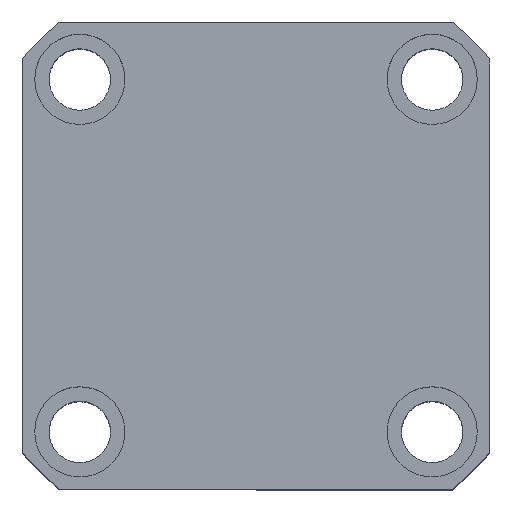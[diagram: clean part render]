
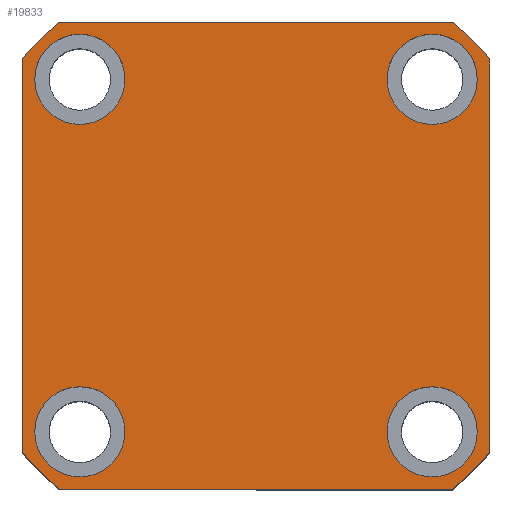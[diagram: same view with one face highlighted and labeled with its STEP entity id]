
A CAD part, top view. The second image highlights one B-rep face of the part: STEP entity #19833.
In plain terms, the highlighted planar face has unit normal (0, 0, 1) as drawn and (0, 0, -1) by its records, which use the part's own axes.
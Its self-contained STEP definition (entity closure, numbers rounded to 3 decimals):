
#9 = EDGE_CURVE ( 'NONE', #3410, #898, #810, .T. ) ;
#74 = DIRECTION ( 'NONE',  ( 0., 0., -1. ) ) ;
#260 = ORIENTED_EDGE ( 'NONE', *, *, #13606, .F. ) ;
#266 = EDGE_LOOP ( 'NONE', ( #9422, #260 ) ) ;
#399 = ORIENTED_EDGE ( 'NONE', *, *, #14203, .F. ) ;
#436 = EDGE_CURVE ( 'NONE', #10722, #5711, #14629, .T. ) ;
#810 = CIRCLE ( 'NONE', #9112, 11. ) ;
#898 = VERTEX_POINT ( 'NONE', #15229 ) ;
#918 = DIRECTION ( 'NONE',  ( 0., 1., 0. ) ) ;
#965 = ORIENTED_EDGE ( 'NONE', *, *, #436, .F. ) ;
#979 = DIRECTION ( 'NONE',  ( 0., 0., -1. ) ) ;
#1200 = VECTOR ( 'NONE', #12163, 1000. ) ;
#1265 = ORIENTED_EDGE ( 'NONE', *, *, #14939, .F. ) ;
#1425 = CARTESIAN_POINT ( 'NONE',  ( 57., -47.971, 0. ) ) ;
#1445 = CARTESIAN_POINT ( 'NONE',  ( -43., 43., 0. ) ) ;
#1877 = CARTESIAN_POINT ( 'NONE',  ( 57., 47.971, 0. ) ) ;
#2062 = AXIS2_PLACEMENT_3D ( 'NONE', #10453, #979, #12047 ) ;
#2139 = CARTESIAN_POINT ( 'NONE',  ( 0., 0., 0. ) ) ;
#2350 = AXIS2_PLACEMENT_3D ( 'NONE', #13523, #4075, #15080 ) ;
#2367 = CARTESIAN_POINT ( 'NONE',  ( -57., -47.971, 0. ) ) ;
#2419 = VERTEX_POINT ( 'NONE', #1425 ) ;
#2567 = ORIENTED_EDGE ( 'NONE', *, *, #11884, .F. ) ;
#3030 = DIRECTION ( 'NONE',  ( -1., 0., 0. ) ) ;
#3237 = EDGE_CURVE ( 'NONE', #16544, #8489, #9156, .T. ) ;
#3410 = VERTEX_POINT ( 'NONE', #17077 ) ;
#3466 = CARTESIAN_POINT ( 'NONE',  ( -57., 47.971, 0. ) ) ;
#3551 = VERTEX_POINT ( 'NONE', #17213 ) ;
#3650 = AXIS2_PLACEMENT_3D ( 'NONE', #13434, #16644, #16985 ) ;
#3732 = DIRECTION ( 'NONE',  ( 1., 0., 0. ) ) ;
#3831 = LINE ( 'NONE', #15278, #18623 ) ;
#3970 = CIRCLE ( 'NONE', #19743, 11. ) ;
#4058 = EDGE_LOOP ( 'NONE', ( #12464, #18566 ) ) ;
#4075 = DIRECTION ( 'NONE',  ( 0., 0., 1. ) ) ;
#4412 = CARTESIAN_POINT ( 'NONE',  ( -54., 43., 0. ) ) ;
#4547 = AXIS2_PLACEMENT_3D ( 'NONE', #19621, #10183, #13540 ) ;
#4614 = LINE ( 'NONE', #15111, #8313 ) ;
#5097 = CIRCLE ( 'NONE', #19983, 11. ) ;
#5223 = CARTESIAN_POINT ( 'NONE',  ( 0., 0., 0. ) ) ;
#5396 = VERTEX_POINT ( 'NONE', #15519 ) ;
#5711 = VERTEX_POINT ( 'NONE', #3466 ) ;
#5927 = DIRECTION ( 'NONE',  ( -1., 0., 0. ) ) ;
#6144 = CARTESIAN_POINT ( 'NONE',  ( -54., -43., 0. ) ) ;
#6428 = CARTESIAN_POINT ( 'NONE',  ( -43., -43., 0. ) ) ;
#6628 = EDGE_CURVE ( 'NONE', #5396, #3551, #8815, .T. ) ;
#6660 = EDGE_CURVE ( 'NONE', #898, #3410, #16695, .T. ) ;
#6822 = DIRECTION ( 'NONE',  ( 1., 0., 0. ) ) ;
#6966 = VERTEX_POINT ( 'NONE', #18559 ) ;
#7274 = FACE_BOUND ( 'NONE', #15528, .T. ) ;
#7379 = LINE ( 'NONE', #8365, #12092 ) ;
#7910 = EDGE_CURVE ( 'NONE', #2419, #14008, #4614, .T. ) ;
#7994 = EDGE_LOOP ( 'NONE', ( #399, #14477, #13018, #1265, #18265, #19288, #965, #19312 ) ) ;
#8007 = DIRECTION ( 'NONE',  ( -1., 0., 0. ) ) ;
#8026 = AXIS2_PLACEMENT_3D ( 'NONE', #18129, #8691, #19715 ) ;
#8029 = CIRCLE ( 'NONE', #19336, 74.5 ) ;
#8157 = VERTEX_POINT ( 'NONE', #12529 ) ;
#8311 = CARTESIAN_POINT ( 'NONE',  ( 43., 43., 0. ) ) ;
#8313 = VECTOR ( 'NONE', #918, 1000. ) ;
#8365 = CARTESIAN_POINT ( 'NONE',  ( -57., -57., 0. ) ) ;
#8390 = CARTESIAN_POINT ( 'NONE',  ( -43., -43., 0. ) ) ;
#8489 = VERTEX_POINT ( 'NONE', #10227 ) ;
#8691 = DIRECTION ( 'NONE',  ( 0., 0., 1. ) ) ;
#8815 = CIRCLE ( 'NONE', #9512, 11. ) ;
#8828 = VERTEX_POINT ( 'NONE', #4412 ) ;
#8881 = VERTEX_POINT ( 'NONE', #6144 ) ;
#8981 = EDGE_CURVE ( 'NONE', #8881, #8157, #5097, .T. ) ;
#9112 = AXIS2_PLACEMENT_3D ( 'NONE', #10388, #19884, #10181 ) ;
#9156 = CIRCLE ( 'NONE', #2350, 74.5 ) ;
#9211 = ORIENTED_EDGE ( 'NONE', *, *, #6660, .F. ) ;
#9248 = CARTESIAN_POINT ( 'NONE',  ( -47.971, 57., 0. ) ) ;
#9422 = ORIENTED_EDGE ( 'NONE', *, *, #14470, .F. ) ;
#9489 = ORIENTED_EDGE ( 'NONE', *, *, #8981, .F. ) ;
#9512 = AXIS2_PLACEMENT_3D ( 'NONE', #9550, #74, #11147 ) ;
#9550 = CARTESIAN_POINT ( 'NONE',  ( 43., -43., 0. ) ) ;
#9602 = LINE ( 'NONE', #10578, #1200 ) ;
#9887 = DIRECTION ( 'NONE',  ( -1., 0., 0. ) ) ;
#9953 = DIRECTION ( 'NONE',  ( 1., 0., 0. ) ) ;
#9982 = DIRECTION ( 'NONE',  ( -1., 0., 0. ) ) ;
#10181 = DIRECTION ( 'NONE',  ( -1., 0., 0. ) ) ;
#10183 = DIRECTION ( 'NONE',  ( 0., 0., -1. ) ) ;
#10227 = CARTESIAN_POINT ( 'NONE',  ( -47.971, -57., 0. ) ) ;
#10388 = CARTESIAN_POINT ( 'NONE',  ( 43., 43., 0. ) ) ;
#10453 = CARTESIAN_POINT ( 'NONE',  ( -43., 43., 0. ) ) ;
#10578 = CARTESIAN_POINT ( 'NONE',  ( -57., 57., 0. ) ) ;
#10722 = VERTEX_POINT ( 'NONE', #9248 ) ;
#10996 = FACE_OUTER_BOUND ( 'NONE', #7994, .T. ) ;
#11120 = CIRCLE ( 'NONE', #2062, 11. ) ;
#11147 = DIRECTION ( 'NONE',  ( -1., 0., 0. ) ) ;
#11884 = EDGE_CURVE ( 'NONE', #8157, #8881, #3970, .T. ) ;
#12047 = DIRECTION ( 'NONE',  ( -1., 0., 0. ) ) ;
#12092 = VECTOR ( 'NONE', #9953, 1000. ) ;
#12163 = DIRECTION ( 'NONE',  ( 0., -1., 0. ) ) ;
#12464 = ORIENTED_EDGE ( 'NONE', *, *, #18662, .F. ) ;
#12496 = DIRECTION ( 'NONE',  ( 0., 0., -1. ) ) ;
#12529 = CARTESIAN_POINT ( 'NONE',  ( -32., -43., 0. ) ) ;
#12917 = AXIS2_PLACEMENT_3D ( 'NONE', #1445, #12496, #3030 ) ;
#13018 = ORIENTED_EDGE ( 'NONE', *, *, #19093, .F. ) ;
#13156 = VERTEX_POINT ( 'NONE', #15268 ) ;
#13186 = DIRECTION ( 'NONE',  ( 0., 0., 1. ) ) ;
#13434 = CARTESIAN_POINT ( 'NONE',  ( 0., 0., 0. ) ) ;
#13523 = CARTESIAN_POINT ( 'NONE',  ( 0., 0., 0. ) ) ;
#13540 = DIRECTION ( 'NONE',  ( -1., 0., 0. ) ) ;
#13606 = EDGE_CURVE ( 'NONE', #6966, #8828, #11120, .T. ) ;
#14008 = VERTEX_POINT ( 'NONE', #1877 ) ;
#14127 = CARTESIAN_POINT ( 'NONE',  ( 47.971, -57., 0. ) ) ;
#14203 = EDGE_CURVE ( 'NONE', #14008, #13156, #20212, .T. ) ;
#14470 = EDGE_CURVE ( 'NONE', #8828, #6966, #18225, .T. ) ;
#14477 = ORIENTED_EDGE ( 'NONE', *, *, #7910, .F. ) ;
#14572 = VERTEX_POINT ( 'NONE', #14127 ) ;
#14624 = ORIENTED_EDGE ( 'NONE', *, *, #9, .F. ) ;
#14629 = CIRCLE ( 'NONE', #3650, 74.5 ) ;
#14658 = PLANE ( 'NONE',  #18550 ) ;
#14939 = EDGE_CURVE ( 'NONE', #8489, #14572, #7379, .T. ) ;
#15080 = DIRECTION ( 'NONE',  ( 1., 0., 0. ) ) ;
#15111 = CARTESIAN_POINT ( 'NONE',  ( 57., 57., 0. ) ) ;
#15144 = FACE_BOUND ( 'NONE', #4058, .T. ) ;
#15229 = CARTESIAN_POINT ( 'NONE',  ( 54., 43., 0. ) ) ;
#15251 = EDGE_CURVE ( 'NONE', #5711, #16544, #9602, .T. ) ;
#15268 = CARTESIAN_POINT ( 'NONE',  ( 47.971, 57., 0. ) ) ;
#15278 = CARTESIAN_POINT ( 'NONE',  ( -57., 57., 0. ) ) ;
#15519 = CARTESIAN_POINT ( 'NONE',  ( 54., -43., 0. ) ) ;
#15528 = EDGE_LOOP ( 'NONE', ( #14624, #9211 ) ) ;
#16237 = DIRECTION ( 'NONE',  ( 0., 0., 1. ) ) ;
#16544 = VERTEX_POINT ( 'NONE', #2367 ) ;
#16623 = FACE_BOUND ( 'NONE', #266, .T. ) ;
#16644 = DIRECTION ( 'NONE',  ( 0., 0., 1. ) ) ;
#16695 = CIRCLE ( 'NONE', #19836, 11. ) ;
#16985 = DIRECTION ( 'NONE',  ( 1., 0., 0. ) ) ;
#17077 = CARTESIAN_POINT ( 'NONE',  ( 32., 43., 0. ) ) ;
#17213 = CARTESIAN_POINT ( 'NONE',  ( 32., -43., 0. ) ) ;
#17445 = DIRECTION ( 'NONE',  ( 0., 0., -1. ) ) ;
#18129 = CARTESIAN_POINT ( 'NONE',  ( 0., 0., 0. ) ) ;
#18225 = CIRCLE ( 'NONE', #12917, 11. ) ;
#18265 = ORIENTED_EDGE ( 'NONE', *, *, #3237, .F. ) ;
#18550 = AXIS2_PLACEMENT_3D ( 'NONE', #5223, #16237, #6822 ) ;
#18559 = CARTESIAN_POINT ( 'NONE',  ( -32., 43., 0. ) ) ;
#18566 = ORIENTED_EDGE ( 'NONE', *, *, #6628, .F. ) ;
#18623 = VECTOR ( 'NONE', #5927, 1000. ) ;
#18662 = EDGE_CURVE ( 'NONE', #3551, #5396, #19381, .T. ) ;
#18776 = EDGE_LOOP ( 'NONE', ( #9489, #2567 ) ) ;
#19093 = EDGE_CURVE ( 'NONE', #14572, #2419, #8029, .T. ) ;
#19288 = ORIENTED_EDGE ( 'NONE', *, *, #15251, .F. ) ;
#19312 = ORIENTED_EDGE ( 'NONE', *, *, #19378, .F. ) ;
#19329 = DIRECTION ( 'NONE',  ( 0., 0., -1. ) ) ;
#19336 = AXIS2_PLACEMENT_3D ( 'NONE', #2139, #13186, #3732 ) ;
#19360 = FACE_BOUND ( 'NONE', #18776, .T. ) ;
#19378 = EDGE_CURVE ( 'NONE', #13156, #10722, #3831, .T. ) ;
#19381 = CIRCLE ( 'NONE', #4547, 11. ) ;
#19425 = DIRECTION ( 'NONE',  ( 0., 0., -1. ) ) ;
#19621 = CARTESIAN_POINT ( 'NONE',  ( 43., -43., 0. ) ) ;
#19715 = DIRECTION ( 'NONE',  ( 1., 0., 0. ) ) ;
#19743 = AXIS2_PLACEMENT_3D ( 'NONE', #8390, #19425, #9982 ) ;
#19833 = ADVANCED_FACE ( 'NONE', ( #19360, #15144, #7274, #16623, #10996 ), #14658, .F. ) ;
#19836 = AXIS2_PLACEMENT_3D ( 'NONE', #8311, #19329, #9887 ) ;
#19884 = DIRECTION ( 'NONE',  ( 0., 0., -1. ) ) ;
#19983 = AXIS2_PLACEMENT_3D ( 'NONE', #6428, #17445, #8007 ) ;
#20212 = CIRCLE ( 'NONE', #8026, 74.5 ) ;
